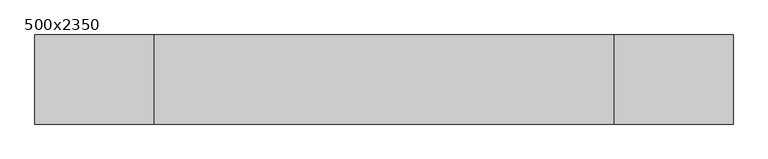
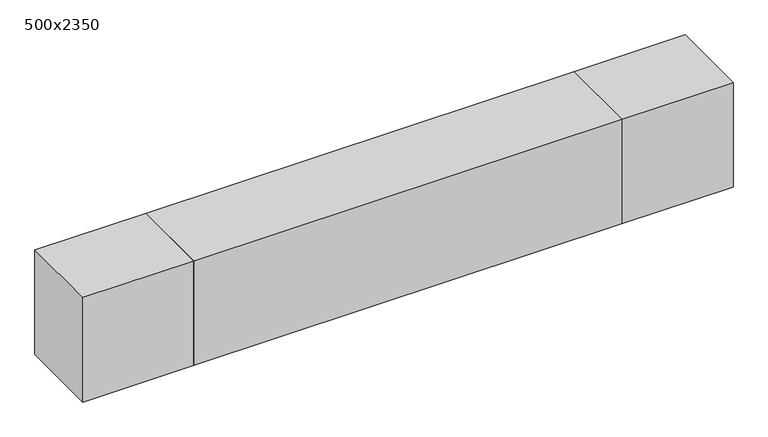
"""IFC4 building model written with IfcOpenShell, lengths in millimetres: furniture geometry, Fu_TV+тумба_LEG : 500x2350."""

from ifc_helpers import new_model, si_unit, origin, origin_with_axes, place, context, project, spatial, polyline, outline, extrude, source, transform, mapped, element, save


def furniture_500x2350_ca4e032f(model_context):
    return source(origin(), model_context, "Body", "SweptSolid", [
        extrude(outline(polyline([(948.401892, 916.7770492), (948.401892, 616.7770492), (548.401892, 616.7770492), (548.401892, 916.7770492), (948.401892, 916.7770492)])), origin_with_axes(), (0.0, 0.0, 1.0), 400.0),
        extrude(outline(polyline([(-1001.598108, 916.7770492), (-1001.598108, 616.7770492), (-1401.598108, 616.7770492), (-1401.598108, 916.7770492), (-1001.598108, 916.7770492)])), origin_with_axes(), (0.0, 0.0, 1.0), 400.0),
        extrude(outline(polyline([(548.345649, 916.7770492), (548.345649, 616.7770492), (-1001.598108, 616.7770492), (-1001.598108, 916.7770492), (548.345649, 916.7770492)])), origin_with_axes(), (0.0, 0.0, 1.0), 400.0),
    ])


if __name__ == "__main__":
    model = new_model("IFC4")
    model_context = context("Model", 3, world=origin())
    ifc_project = project(units=[si_unit("LENGTHUNIT", "METRE", prefix="MILLI")], contexts=[model_context])
    site = spatial("IfcSite", under=ifc_project)
    building = spatial("IfcBuilding", under=site)
    placement = place(None, origin())
    furniture_500x2350_shape = furniture_500x2350_ca4e032f(model_context)
    element("IfcFurniture", 1, ObjectType="Fu_TV+тумба_LEG : 500x2350", at=placement, inside=building, context=model_context, shape_type="MappedRepresentation", body=[
        mapped(furniture_500x2350_shape, transform((0.0, 0.0, 0.0), x_axis=(1.0, 0.0, 0.0), y_axis=(0.0, 1.0, 0.0), z_axis=(0.0, 0.0, 1.0))),
    ])
    save(model, "model.ifc")
